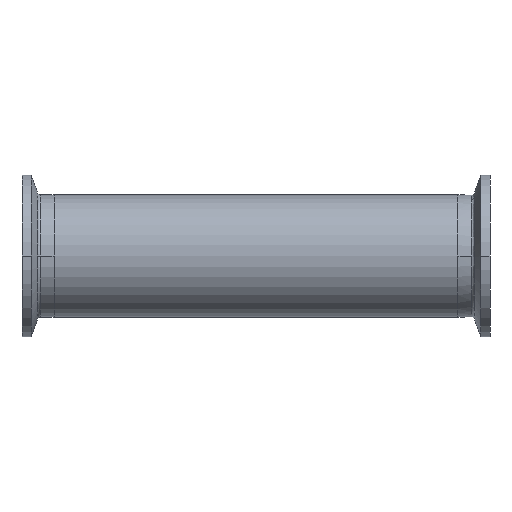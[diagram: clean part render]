
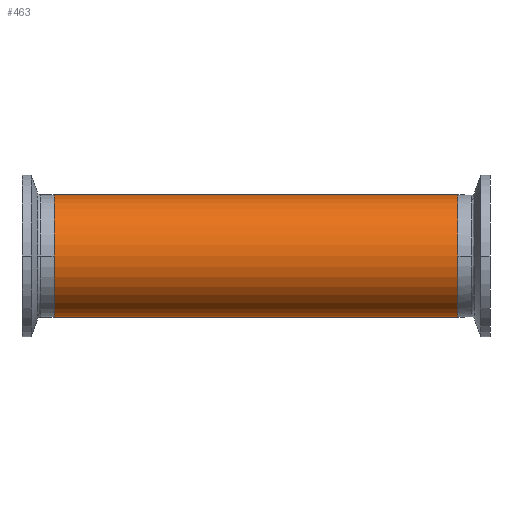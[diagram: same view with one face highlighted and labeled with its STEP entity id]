
A CAD part, front view. The second image highlights one B-rep face of the part: STEP entity #463.
In plain terms, the highlighted cylindrical face has radius 19.05 mm (diameter 38.1 mm), a partial arc.
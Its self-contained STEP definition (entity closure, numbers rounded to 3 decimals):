
#88 = LINE ( 'NONE', #1779, #3288 ) ;
#262 = DIRECTION ( 'NONE',  ( -1., 0., 0. ) ) ;
#451 = EDGE_CURVE ( 'NONE', #3702, #2944, #789, .T. ) ;
#457 = AXIS2_PLACEMENT_3D ( 'NONE', #2218, #262, #2539 ) ;
#463 = ADVANCED_FACE ( 'NONE', ( #3111 ), #1621, .T. ) ;
#640 = CARTESIAN_POINT ( 'NONE',  ( 116.882, 0., -19.05 ) ) ;
#741 = DIRECTION ( 'NONE',  ( 1., 0., 0. ) ) ;
#751 = CARTESIAN_POINT ( 'NONE',  ( -63., 0., 19.05 ) ) ;
#789 = LINE ( 'NONE', #640, #3907 ) ;
#799 = CARTESIAN_POINT ( 'NONE',  ( -63., 0., -19.05 ) ) ;
#1116 = AXIS2_PLACEMENT_3D ( 'NONE', #3513, #1679, #3337 ) ;
#1505 = CARTESIAN_POINT ( 'NONE',  ( 63., 0., -19.05 ) ) ;
#1621 = CYLINDRICAL_SURFACE ( 'NONE', #1116, 19.05 ) ;
#1676 = EDGE_CURVE ( 'NONE', #3039, #3916, #88, .T. ) ;
#1679 = DIRECTION ( 'NONE',  ( -1., 0., 0. ) ) ;
#1721 = ORIENTED_EDGE ( 'NONE', *, *, #2182, .T. ) ;
#1779 = CARTESIAN_POINT ( 'NONE',  ( 116.882, 0., 19.05 ) ) ;
#1847 = EDGE_CURVE ( 'NONE', #3702, #3039, #2716, .T. ) ;
#1904 = CIRCLE ( 'NONE', #2271, 19.05 ) ;
#2182 = EDGE_CURVE ( 'NONE', #3916, #2944, #1904, .T. ) ;
#2218 = CARTESIAN_POINT ( 'NONE',  ( 63., 0., 0. ) ) ;
#2253 = EDGE_LOOP ( 'NONE', ( #3658, #2449, #3667, #1721 ) ) ;
#2271 = AXIS2_PLACEMENT_3D ( 'NONE', #2669, #741, #2960 ) ;
#2449 = ORIENTED_EDGE ( 'NONE', *, *, #1847, .T. ) ;
#2539 = DIRECTION ( 'NONE',  ( 0., 0., 1. ) ) ;
#2669 = CARTESIAN_POINT ( 'NONE',  ( -63., 0., 0. ) ) ;
#2716 = CIRCLE ( 'NONE', #457, 19.05 ) ;
#2854 = DIRECTION ( 'NONE',  ( -1., 0., 0. ) ) ;
#2944 = VERTEX_POINT ( 'NONE', #799 ) ;
#2960 = DIRECTION ( 'NONE',  ( 0., 0., 1. ) ) ;
#3039 = VERTEX_POINT ( 'NONE', #3953 ) ;
#3111 = FACE_OUTER_BOUND ( 'NONE', #2253, .T. ) ;
#3288 = VECTOR ( 'NONE', #2854, 1000. ) ;
#3337 = DIRECTION ( 'NONE',  ( 0., 0., 1. ) ) ;
#3513 = CARTESIAN_POINT ( 'NONE',  ( 116.882, 0., 0. ) ) ;
#3658 = ORIENTED_EDGE ( 'NONE', *, *, #451, .F. ) ;
#3667 = ORIENTED_EDGE ( 'NONE', *, *, #1676, .T. ) ;
#3702 = VERTEX_POINT ( 'NONE', #1505 ) ;
#3797 = DIRECTION ( 'NONE',  ( -1., 0., 0. ) ) ;
#3907 = VECTOR ( 'NONE', #3797, 1000. ) ;
#3916 = VERTEX_POINT ( 'NONE', #751 ) ;
#3953 = CARTESIAN_POINT ( 'NONE',  ( 63., 0., 19.05 ) ) ;
